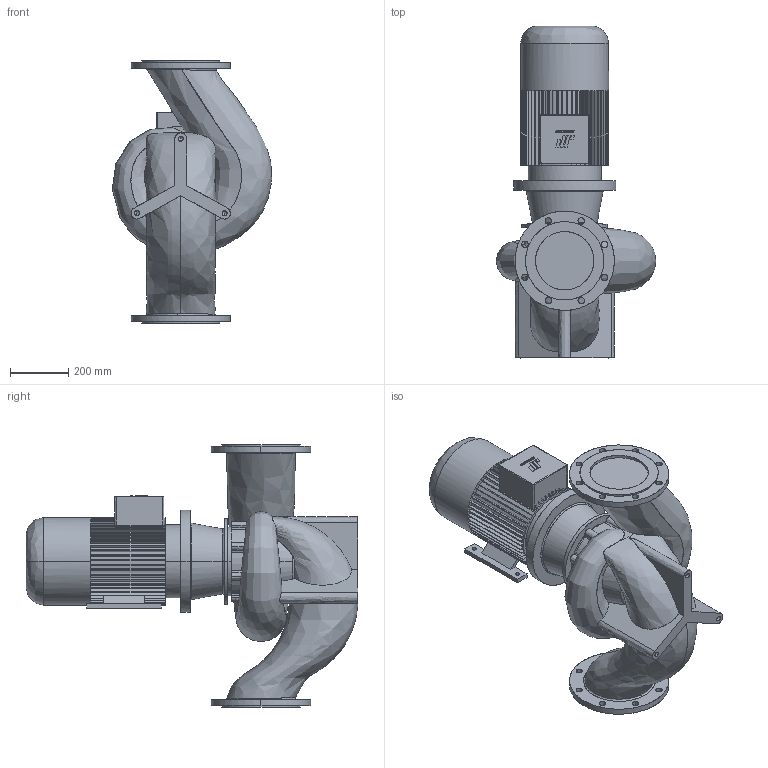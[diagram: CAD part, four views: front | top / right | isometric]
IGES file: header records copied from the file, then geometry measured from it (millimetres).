
Start section: CombiLine
Global section: file name: CLB_200-160_IEC160M_ND10.igs; native system:  By UGS Corp.; preprocessor: XPlus GENERIC/IGES 3.0; author: Stageplaats; organization: Johnson Pump Water B.V.; date: 20070718.090646; units: millimetre
Bounding box: 546 x 1136.5 x 900 mm (x, y, z)
Surface area: 2938951.9 mm2 (no closed solid volume)
Topology: 0 solids, 0 shells, 593 faces, 3597 edges, 3591 vertices
Faces by surface type: bspline 593
